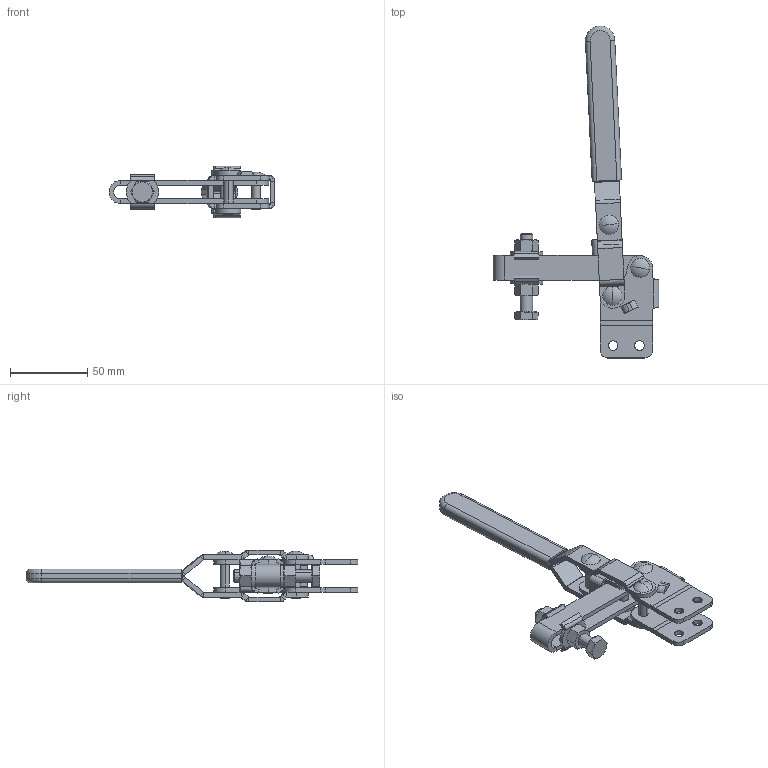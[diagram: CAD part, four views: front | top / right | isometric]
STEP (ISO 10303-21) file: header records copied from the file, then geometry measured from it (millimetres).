
FILE_DESCRIPTION (( 'STEP AP214' ), '1' );
FILE_NAME ('ISK-41BS小0.STEP', '2015-06-29T10:05:03', ( '' ), ( '' ), 'SwSTEP 2.0', 'SolidWorks 2015', '' );
FILE_SCHEMA (( 'AUTOMOTIVE_DESIGN' ));
Length unit declared in the file: millimetre
Products named in the file (11): Arm; Base; ISK-41BS小0; oval head semi-tubular rivets gb_GB_CONNECTING_PIECE_RIVET_OHSR 6X28; oval head semi-tubular rivets gb_GB_CONNECTING_PIECE_RIVET_OHSR 6X22; Grip; hexagon nut style 2_ab_jis_JIS B 1181 Hexagon nut - style 2 A M8 - D --N; continuous thread hexagon head bolt_c_jis_JIS B 1180 Continuous thread hexagon head bolt C M8 x 50 --WN; Washer_D8-15; Handle; Link
Assembly tree (15 placements, depth 2):
  ISK-41BS小0
    Base
    Arm
    Link
    Handle  x2
    Washer_D8-15  x2
    continuous thread hexagon head bolt_c_jis_JIS B 1180 Continuous thread hexagon head bolt C M8 x 50 --WN
    hexagon nut style 2_ab_jis_JIS B 1181 Hexagon nut - style 2 A M8 - D --N  x2
    Grip
    oval head semi-tubular rivets gb_GB_CONNECTING_PIECE_RIVET_OHSR 6X22  x2
    oval head semi-tubular rivets gb_GB_CONNECTING_PIECE_RIVET_OHSR 6X28  x2
Bounding box: 107.02 x 214.44 x 33.2 mm (x, y, z)
Volume: 58752.4 mm3; surface area: 52356.6 mm2
Topology: 15 solids, 15 shells, 473 faces, 1052 edges, 612 vertices
Faces by surface type: plane 243, cylinder 158, cone 48, torus 12, sphere 8, bspline 4
Entity records: 10064 total; most frequent: CARTESIAN_POINT 1929, DIRECTION 1690, ORIENTED_EDGE 1516, EDGE_CURVE 758, AXIS2_PLACEMENT_3D 635, VERTEX_POINT 450, LINE 420, VECTOR 420
